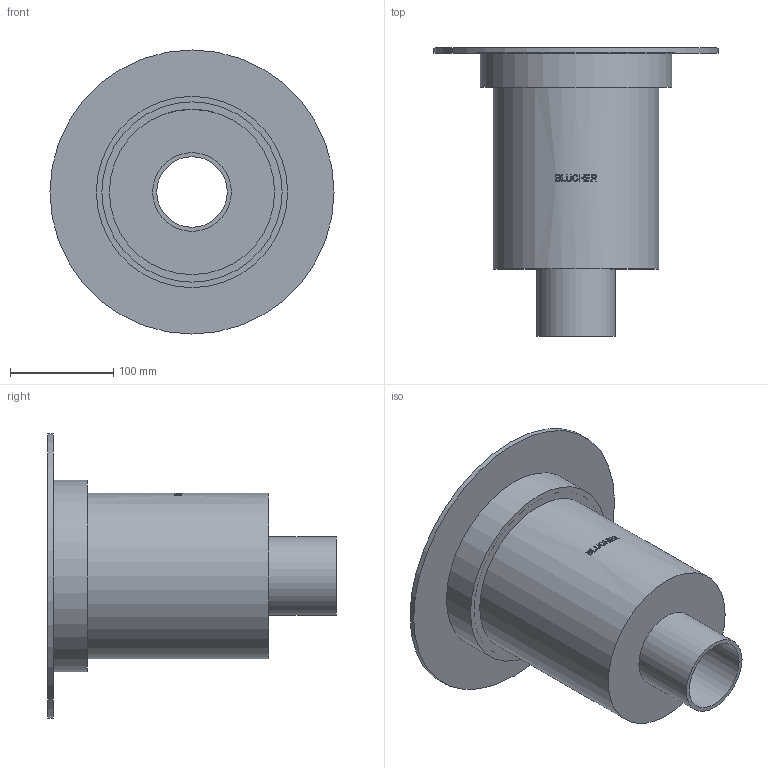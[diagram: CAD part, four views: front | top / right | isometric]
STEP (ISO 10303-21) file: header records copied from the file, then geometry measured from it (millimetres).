
FILE_DESCRIPTION((''),'2;1');
FILE_NAME('C:\Drawings\3D_CAD_Models\Blucher\BFD_Floor Drains_Complete_091119\BFD-500\WebsiteFiles\3D\STEP\BFD-513.stp','2009-11-30T08:51:48',('hofmansp'),(''),'Autodesk Inventor 2010','Autodesk Inventor 2010','');
FILE_SCHEMA(('AUTOMOTIVE_DESIGN { 1 0 10303 214 1 1 1 1 }'));
Length unit declared in the file: inch
Products named in the file (1): BFD-513
Bounding box: 275 x 279 x 275 mm (x, y, z)
Volume: 554668.6 mm3; surface area: 360682.8 mm2
Topology: 1 solids, 1 shells, 116 faces, 291 edges, 194 vertices
Faces by surface type: plane 63, bspline 34, cylinder 19
Full cylindrical faces by diameter (mm): 68.2 x1, 76.2 x1, 156.5 x1, 160 x1, 174.5 x1, 185.2 x1, 232 x1, 233 x1, 275 x1
Entity records: 14060 total; most frequent: CARTESIAN_POINT 11546, ORIENTED_EDGE 564, DIRECTION 388, EDGE_CURVE 282, VERTEX_POINT 194, EDGE_LOOP 144, AXIS2_PLACEMENT_3D 136, FACE_OUTER_BOUND 116
